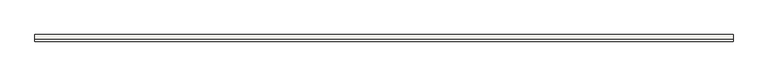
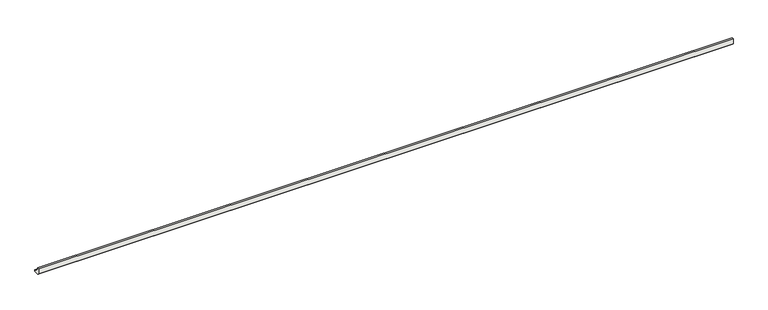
"""IFC4 building model written with IfcOpenShell, lengths in millimetres: slab geometry, ROSA GRES_188 : Pieza 188_Pietro_White_Anti-Slip."""

from ifc_helpers import new_model, si_unit, point, frame, frame_2d, origin, place, context, project, spatial, polyline, circle_curve, trimmed, segment, composite_curve, outline, extrude, source, transform, mapped, element, save


def slab_3984271c(model_context):
    return source(origin(), model_context, "Body", "SweptSolid", [
        extrude(outline(composite_curve([segment(polyline([(0.0, 8.7114978), (0.0, 40.0), (9.9734114, 40.0)]), True, "CONTINUOUS"), segment(trimmed(circle_curve(frame_2d((39.9955547, 39.9955547)), 30.0221435), [point((9.9734114, 40.0))], [point((40.0, 9.9734114))], True, "CARTESIAN"), True, "CONTINUOUS"), segment(polyline([(40.0, 9.9734114), (40.0, 0.0), (8.7114978, 0.0), (0.0, 8.7114978)]), True, "CONTINUOUS")], self_intersect=False)), frame((0.0, 0.0, 0.0), z_axis=(1.0, 0.0, 0.0), x_axis=(0.0, 1.0, 0.0)), (0.0, 0.0, 1.0), 4203.3123202),
    ])


if __name__ == "__main__":
    model = new_model("IFC4")
    model_context = context("Model", 3, world=origin())
    ifc_project = project(units=[si_unit("LENGTHUNIT", "METRE", prefix="MILLI")], contexts=[model_context])
    site = spatial("IfcSite", under=ifc_project)
    building = spatial("IfcBuilding", under=site)
    placement = place(None, origin())
    slab_shape = slab_3984271c(model_context)
    element("IfcSlab", 1, ObjectType="ROSA GRES_188 : Pieza 188_Pietro_White_Anti-Slip", at=placement, inside=building, context=model_context, shape_type="MappedRepresentation", body=[
        mapped(slab_shape, transform((0.0, 0.0, 0.0), x_axis=(1.0, 0.0, 0.0), y_axis=(0.0, 1.0, 0.0), z_axis=(0.0, 0.0, 1.0))),
    ])
    save(model, "model.ifc")
